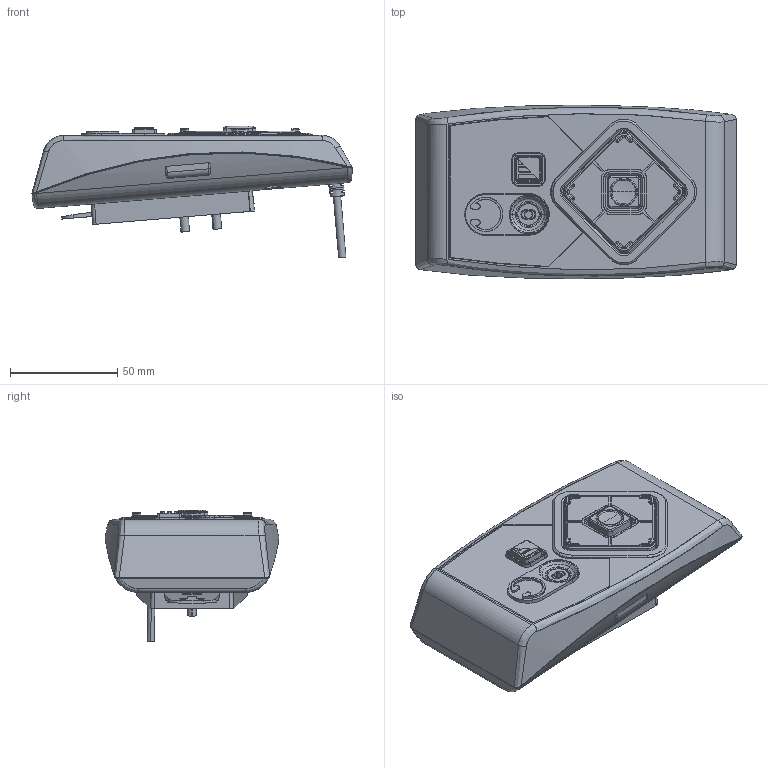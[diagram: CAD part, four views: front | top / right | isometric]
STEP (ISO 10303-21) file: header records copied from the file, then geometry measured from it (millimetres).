
FILE_DESCRIPTION (( 'STEP AP214' ), '1' );
FILE_NAME ('UNAV ACCESSIBILITY MODULE WITH BRACKET ASSY.STEP', '2018-01-30T11:10:32', ( '' ), ( '' ), 'SwSTEP 2.0', 'SolidWorks 2017', '' );
FILE_SCHEMA (( 'AUTOMOTIVE_DESIGN' ));
Length unit declared in the file: millimetre
Products named in the file (1): UNAV ACCESSIBILITY MODULE WITH BRACKET ASSY
Bounding box: 149.48 x 80.98 x 61.35 mm (x, y, z)
Surface area: 53593.8 mm2 (no closed solid volume)
Topology: 0 solids, 1047 shells, 1088 faces, 5870 edges, 5807 vertices
Faces by surface type: plane 430, cone 251, bspline 250, cylinder 157
Entity records: 100427 total; most frequent: CARTESIAN_POINT 54330, DIRECTION 6524, ORIENTED_EDGE 5889, EDGE_CURVE 5848, VERTEX_POINT 5807, VECTOR 3018, LINE 3018, B_SPLINE_CURVE_WITH_KNOTS 1758
